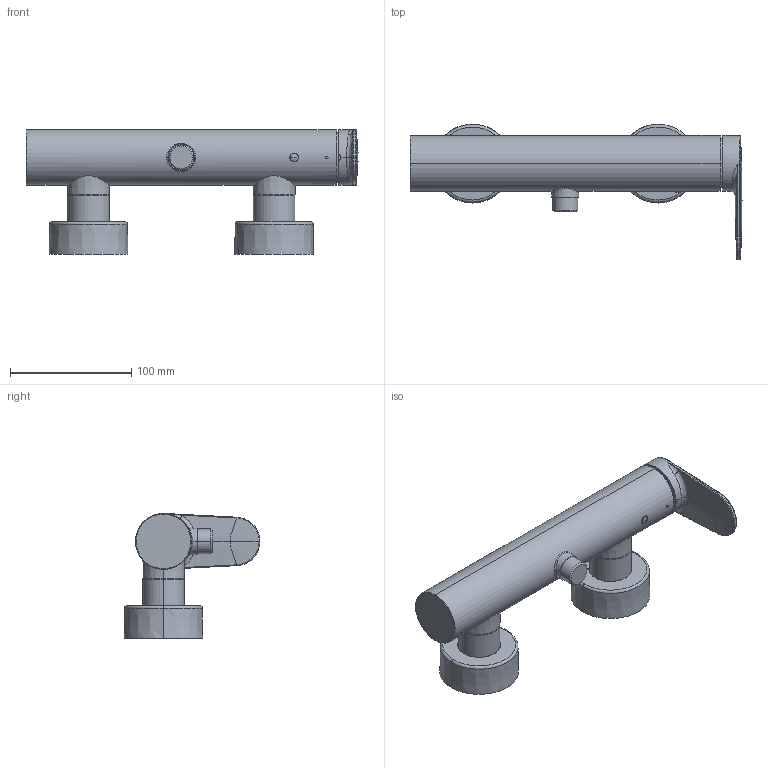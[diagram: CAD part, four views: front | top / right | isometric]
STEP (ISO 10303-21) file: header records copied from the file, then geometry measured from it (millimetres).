
FILE_DESCRIPTION((''),'2;1');
FILE_NAME('509241_SW0001','2018-02-13T',('ES997'),(''),'CREO PARAMETRIC BY PTC INC, 2016260','CREO PARAMETRIC BY PTC INC, 2016260','');
FILE_SCHEMA(('CONFIG_CONTROL_DESIGN'));
Length unit declared in the file: millimetre
Products named in the file (1): 509241_SW0001
Bounding box: 273.61 x 112 x 103 mm (x, y, z)
Volume: 704173.7 mm3; surface area: 77205.8 mm2
Topology: 1 solids, 2 shells, 165 faces, 375 edges, 226 vertices
Faces by surface type: cylinder 39, torus 38, bspline 35, plane 28, cone 17, sphere 4, extrusion 4
Entity records: 9864 total; most frequent: CARTESIAN_POINT 6379, ORIENTED_EDGE 746, DIRECTION 663, EDGE_CURVE 373, AXIS2_PLACEMENT_3D 286, VERTEX_POINT 226, EDGE_LOOP 185, FACE_OUTER_BOUND 165
